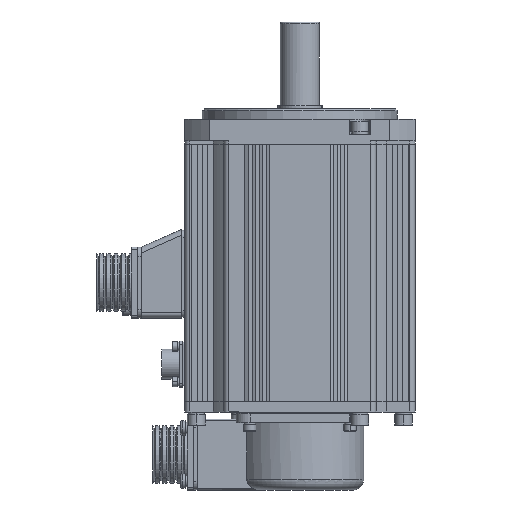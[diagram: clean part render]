
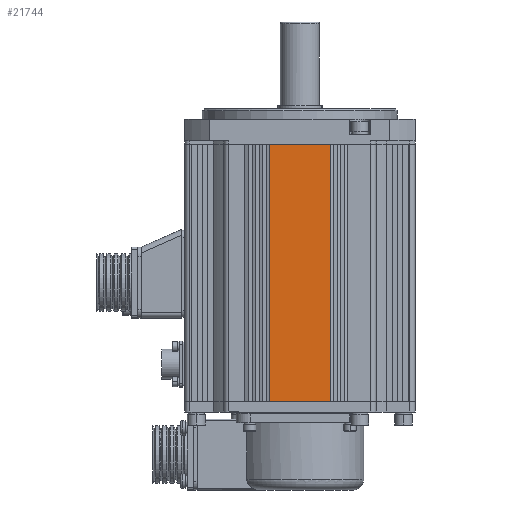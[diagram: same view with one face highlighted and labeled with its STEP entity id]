
A CAD part, front view. The second image highlights one B-rep face of the part: STEP entity #21744.
In plain terms, the highlighted planar face has unit normal (0, -1, 0) as drawn and (0, 1, 0) by its records, which use the part's own axes.
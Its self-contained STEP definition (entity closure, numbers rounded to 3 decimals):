
#14819=DIRECTION('',(0.,0.,-1.));
#14820=VECTOR('',#14819,145.);
#14821=CARTESIAN_POINT('',(-17.,65.,145.));
#14822=LINE('',#14821,#14820);
#14823=DIRECTION('',(1.,0.,0.));
#14824=VECTOR('',#14823,34.);
#14825=CARTESIAN_POINT('',(-17.,65.,0.));
#14826=LINE('',#14825,#14824);
#14831=DIRECTION('',(0.,0.,-1.));
#14832=VECTOR('',#14831,145.);
#14833=CARTESIAN_POINT('',(17.,65.,145.));
#14834=LINE('',#14833,#14832);
#15583=DIRECTION('',(1.,0.,0.));
#15584=VECTOR('',#15583,34.);
#15585=CARTESIAN_POINT('',(-17.,65.,145.));
#15586=LINE('',#15585,#15584);
#16904=CARTESIAN_POINT('',(17.,65.,0.));
#16905=VERTEX_POINT('',#16904);
#16906=CARTESIAN_POINT('',(-17.,65.,0.));
#16907=VERTEX_POINT('',#16906);
#17765=CARTESIAN_POINT('',(-17.,65.,145.));
#17766=VERTEX_POINT('',#17765);
#17767=CARTESIAN_POINT('',(17.,65.,145.));
#17768=VERTEX_POINT('',#17767);
#21731=CARTESIAN_POINT('',(65.,65.,0.));
#21732=DIRECTION('',(0.,1.,0.));
#21733=DIRECTION('',(-1.,0.,0.));
#21734=AXIS2_PLACEMENT_3D('',#21731,#21732,#21733);
#21735=PLANE('',#21734);
#21736=ORIENTED_EDGE('',*,*,#21716,.T.);
#21737=ORIENTED_EDGE('',*,*,#17966,.T.);
#21739=ORIENTED_EDGE('',*,*,#21738,.F.);
#21741=ORIENTED_EDGE('',*,*,#21740,.F.);
#21742=EDGE_LOOP('',(#21736,#21737,#21739,#21741));
#21743=FACE_OUTER_BOUND('',#21742,.F.);
#21744=ADVANCED_FACE('',(#21743),#21735,.T.);
#17966=EDGE_CURVE('',#16907,#16905,#14826,.T.);
#21716=EDGE_CURVE('',#17766,#16907,#14822,.T.);
#21738=EDGE_CURVE('',#17768,#16905,#14834,.T.);
#21740=EDGE_CURVE('',#17766,#17768,#15586,.T.);
